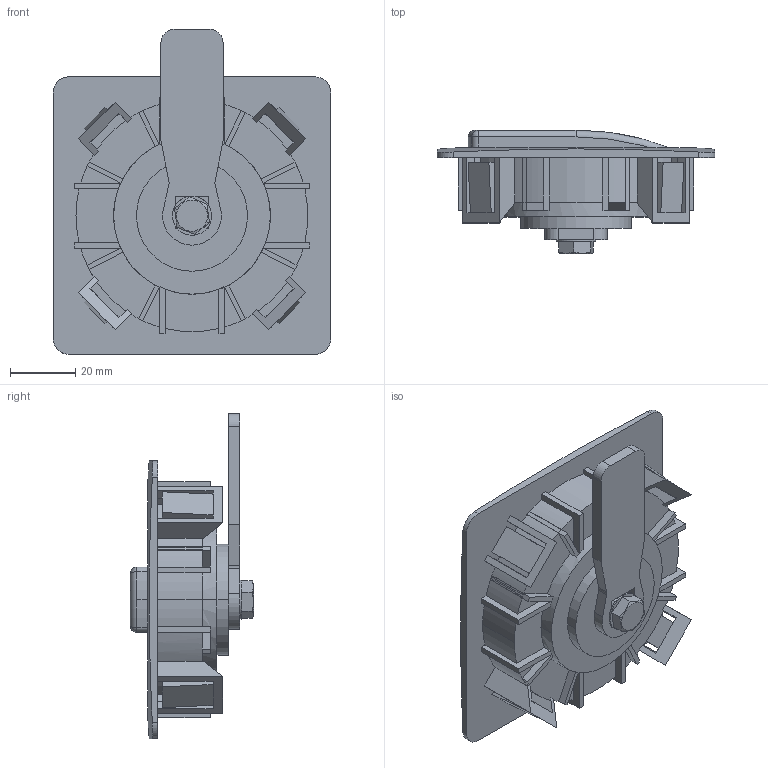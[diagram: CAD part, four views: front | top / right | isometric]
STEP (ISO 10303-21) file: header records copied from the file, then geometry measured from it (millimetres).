
FILE_DESCRIPTION (( 'STEP AP214' ), '1' );
FILE_NAME ('2.607.001.STEP', '2012-09-17T11:19:55', ( 'lukasz' ), ( 'ATC' ), 'SwSTEP 2.0', 'SolidWorks 2010', '' );
FILE_SCHEMA (( 'AUTOMOTIVE_DESIGN' ));
Length unit declared in the file: millimetre
Products named in the file (5): pokretlo1; Œruba M6x11; korpus1; 2.607.001; jezyk3
Assembly tree (4 placements, depth 2):
  2.607.001
    pokretlo1
    Œruba M6x11
    jezyk3
    korpus1
Bounding box: 85 x 37.7 x 99.5 mm (x, y, z)
Volume: 69835.7 mm3; surface area: 38732.9 mm2
Topology: 4 solids, 4 shells, 299 faces, 839 edges, 546 vertices
Faces by surface type: plane 217, cylinder 66, cone 6, sphere 4, bspline 3, torus 3
Entity records: 11370 total; most frequent: CARTESIAN_POINT 2125, ORIENTED_EDGE 1672, DIRECTION 1614, EDGE_CURVE 836, VECTOR 612, LINE 612, VERTEX_POINT 545, AXIS2_PLACEMENT_3D 501
